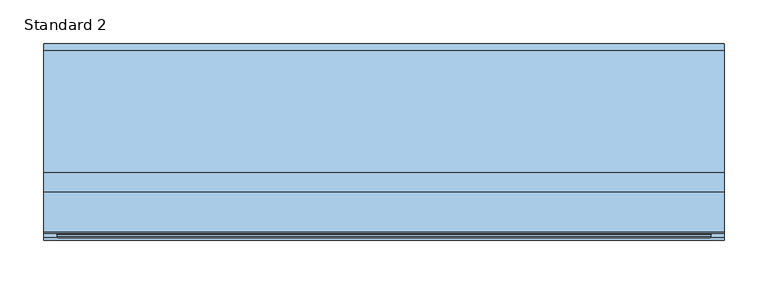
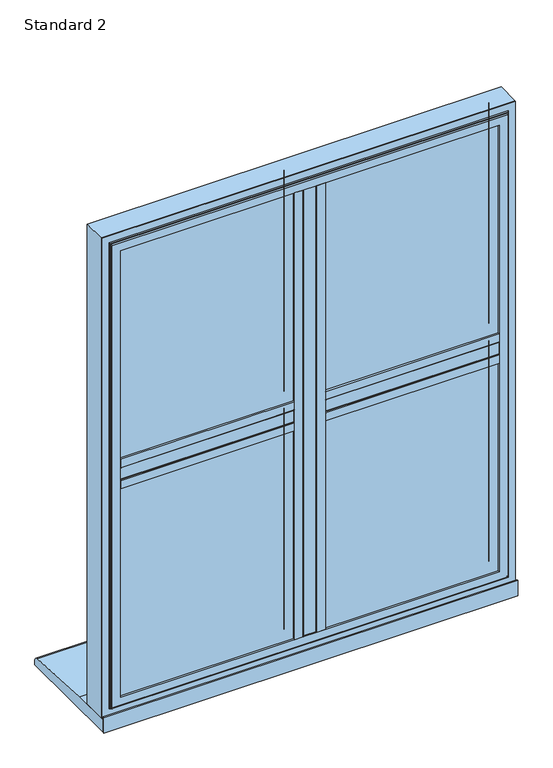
"""IFC4 building model written with IfcOpenShell, lengths in millimetres: window geometry, SMARTS_AlithermHeritage : Standard 2."""

from ifc_helpers import new_model, si_unit, point, frame, frame_2d, origin, place, context, project, spatial, polyline, circle_curve, ellipse_curve, trimmed, segment, composite_curve, outline, extrude, faceted_brep, source, transform, mapped, element, save
from ifc_brep_helpers import plane_surface, cylinder_surface, revolved_surface, advanced_brep


def standard_2_e76dede1(model_context):
    return source(origin(), model_context, "Body", "SolidModel", [
        extrude(outline(polyline([(-13.6941456, 95.2798432), (13.6941456, 95.2798432), (13.6941456, 47.279476), (-13.6941456, 47.279476), (-13.6941456, 95.2798432)])), frame((0.0, 0.0, 652.6941456), z_axis=(0.0, 0.0, 1.0), x_axis=(1.0, 0.0, 0.0)), (0.0, 0.0, 1.0), 919.6117089),
        extrude(outline(composite_curve([segment(polyline([(-29.0, 47.279476), (29.0, 47.279476), (29.0, 43.2798432), (13.0, 43.2798432)]), True, "CONTINUOUS"), segment(trimmed(circle_curve(frame_2d((13.0, 44.2798432)), 1.0), [point((13.0, 43.2798432))], [point((12.0, 44.2798432))], False, "CARTESIAN"), True, "CONTINUOUS"), segment(polyline([(12.0, 44.2798432), (12.0, 45.7798432), (-12.0, 45.7798432), (-12.0, 44.2798432)]), True, "CONTINUOUS"), segment(trimmed(circle_curve(frame_2d((-13.0, 44.2798432)), 1.0), [point((-12.0, 44.2798432))], [point((-13.0, 43.2798432))], False, "CARTESIAN"), True, "CONTINUOUS"), segment(polyline([(-13.0, 43.2798432), (-29.0, 43.2798432), (-29.0, 47.279476)]), True, "CONTINUOUS")], self_intersect=False)), frame((0.0, 0.0, 668.0), z_axis=(0.0, 0.0, 1.0), x_axis=(1.0, 0.0, 0.0)), (0.0, 0.0, 1.0), 889.0),
        extrude(outline(polyline([(-13.6941456, 95.2798432), (-13.6941456, 47.279476), (-372.3058544, 47.279476), (-372.3058544, 95.2798432), (-13.6941456, 95.2798432)])), frame((0.0, 0.0, 1098.8058544), z_axis=(0.0, 0.0, 1.0), x_axis=(1.0, 0.0, 0.0)), (0.0, 0.0, 1.0), 27.3882911),
        extrude(outline(composite_curve([segment(polyline([(47.279476, 1083.5), (43.2798432, 1083.5), (43.2798432, 1099.5)]), True, "CONTINUOUS"), segment(trimmed(circle_curve(frame_2d((44.2798432, 1099.5)), 1.0), [point((43.2798432, 1099.5))], [point((44.2798432, 1100.5))], False, "CARTESIAN"), True, "CONTINUOUS"), segment(polyline([(44.2798432, 1100.5), (45.7798432, 1100.5), (45.7798432, 1124.5), (44.2798432, 1124.5)]), True, "CONTINUOUS"), segment(trimmed(circle_curve(frame_2d((44.2798432, 1125.5)), 1.0), [point((44.2798432, 1124.5))], [point((43.2798432, 1125.5))], False, "CARTESIAN"), True, "CONTINUOUS"), segment(polyline([(43.2798432, 1125.5), (43.2798432, 1141.5), (47.279476, 1141.5), (47.279476, 1083.5)]), True, "CONTINUOUS")], self_intersect=False)), frame((-357.0, 0.0, 0.0), z_axis=(1.0, 0.0, 0.0), x_axis=(0.0, 1.0, 0.0)), (0.0, 0.0, 1.0), 328.0),
        extrude(outline(polyline([(372.3058544, 95.2798432), (372.3058544, 47.279476), (13.6941456, 47.279476), (13.6941456, 95.2798432), (372.3058544, 95.2798432)])), frame((0.0, 0.0, 1098.8058544), z_axis=(0.0, 0.0, 1.0), x_axis=(1.0, 0.0, 0.0)), (0.0, 0.0, 1.0), 27.3882911),
        extrude(outline(composite_curve([segment(polyline([(47.279476, 1083.5), (43.2798432, 1083.5), (43.2798432, 1099.5)]), True, "CONTINUOUS"), segment(trimmed(circle_curve(frame_2d((44.2798432, 1099.5)), 1.0), [point((43.2798432, 1099.5))], [point((44.2798432, 1100.5))], False, "CARTESIAN"), True, "CONTINUOUS"), segment(polyline([(44.2798432, 1100.5), (45.7798432, 1100.5), (45.7798432, 1124.5), (44.2798432, 1124.5)]), True, "CONTINUOUS"), segment(trimmed(circle_curve(frame_2d((44.2798432, 1125.5)), 1.0), [point((44.2798432, 1124.5))], [point((43.2798432, 1125.5))], False, "CARTESIAN"), True, "CONTINUOUS"), segment(polyline([(43.2798432, 1125.5), (43.2798432, 1141.5), (47.279476, 1141.5), (47.279476, 1083.5)]), True, "CONTINUOUS")], self_intersect=False)), frame((29.0, 0.0, 0.0), z_axis=(1.0, 0.0, 0.0), x_axis=(0.0, 1.0, 0.0)), (0.0, 0.0, 1.0), 328.0),
        extrude(outline(polyline([(-367.0, 75.2798432), (-19.0, 75.2798432), (-19.0, 71.2798432), (-367.0, 71.2798432), (-367.0, 75.2798432)])), frame((0.0, 0.0, 658.0), z_axis=(0.0, 0.0, 1.0), x_axis=(1.0, 0.0, 0.0)), (0.0, 0.0, 1.0), 435.5),
        extrude(outline(polyline([(-367.0, 55.2798432), (-19.0, 55.2798432), (-19.0, 51.2798432), (-367.0, 51.2798432), (-367.0, 55.2798432)])), frame((0.0, 0.0, 658.0), z_axis=(0.0, 0.0, 1.0), x_axis=(1.0, 0.0, 0.0)), (0.0, 0.0, 1.0), 435.5),
        extrude(outline(polyline([(1093.5, -367.0), (658.0, -367.0), (658.0, -19.0), (1093.5, -19.0), (1093.5, -367.0)]), holes=[polyline([(1083.5, -29.0), (668.0, -29.0), (668.0, -357.0), (1083.5, -357.0), (1083.5, -29.0)])]), frame((0.0, 55.2798432, 0.0), z_axis=(0.0, 1.0, 0.0), x_axis=(0.0, 0.0, 1.0)), (0.0, 0.0, 1.0), 16.0),
        faceted_brep([(-19.1851151, 95.2798432, 1093.3148849), (-29.0, 78.2798098, 1083.5), (-357.0, 78.2798098, 1083.5), (-366.8148849, 95.2798432, 1093.3148849), (-13.6297324, 78.2798098, 1098.8702676), (-13.6297324, 95.2798432, 1098.8702676), (-372.3702676, 95.2798432, 1098.8702676), (-372.3702676, 78.2798098, 1098.8702676), (-372.3702676, 78.2798098, 652.6297324), (-372.3702676, 95.2798432, 652.6297324), (-13.6297324, 95.2798432, 652.6297324), (-13.6297324, 78.2798098, 652.6297324), (-366.8148849, 95.2798432, 658.1851151), (-19.1851151, 95.2798432, 658.1851151), (-29.0, 78.2798098, 668.0), (-357.0, 78.2798098, 668.0)], [[[0, 1, 2, 3]], [[4, 5, 6, 7]], [[8, 9, 10, 11]], [[5, 10, 9, 6], [3, 12, 13, 0]], [[7, 8, 11, 4], [1, 14, 15, 2]], [[3, 2, 15, 12]], [[7, 6, 9, 8]], [[12, 15, 14, 13]], [[13, 14, 1, 0]], [[11, 10, 5, 4]]]),
        extrude(outline(polyline([(-367.0, 75.2798432), (-19.0, 75.2798432), (-19.0, 71.2798432), (-367.0, 71.2798432), (-367.0, 75.2798432)])), frame((0.0, 0.0, 1131.5), z_axis=(0.0, 0.0, 1.0), x_axis=(1.0, 0.0, 0.0)), (0.0, 0.0, 1.0), 435.5),
        extrude(outline(polyline([(-367.0, 55.2798432), (-19.0, 55.2798432), (-19.0, 51.2798432), (-367.0, 51.2798432), (-367.0, 55.2798432)])), frame((0.0, 0.0, 1131.5), z_axis=(0.0, 0.0, 1.0), x_axis=(1.0, 0.0, 0.0)), (0.0, 0.0, 1.0), 435.5),
        extrude(outline(polyline([(1567.0, -367.0), (1131.5, -367.0), (1131.5, -19.0), (1567.0, -19.0), (1567.0, -367.0)]), holes=[polyline([(1557.0, -29.0), (1141.5, -29.0), (1141.5, -357.0), (1557.0, -357.0), (1557.0, -29.0)])]), frame((0.0, 55.2798432, 0.0), z_axis=(0.0, 1.0, 0.0), x_axis=(0.0, 0.0, 1.0)), (0.0, 0.0, 1.0), 16.0),
        faceted_brep([(-19.1851151, 95.2798432, 1566.8148849), (-29.0, 78.2798098, 1557.0), (-357.0, 78.2798098, 1557.0), (-366.8148849, 95.2798432, 1566.8148849), (-13.6297324, 78.2798098, 1572.3702676), (-13.6297324, 95.2798432, 1572.3702676), (-372.3702676, 95.2798432, 1572.3702676), (-372.3702676, 78.2798098, 1572.3702676), (-372.3702676, 78.2798098, 1126.1297324), (-372.3702676, 95.2798432, 1126.1297324), (-13.6297324, 95.2798432, 1126.1297324), (-13.6297324, 78.2798098, 1126.1297324), (-366.8148849, 95.2798432, 1131.6851151), (-19.1851151, 95.2798432, 1131.6851151), (-29.0, 78.2798098, 1141.5), (-357.0, 78.2798098, 1141.5)], [[[0, 1, 2, 3]], [[4, 5, 6, 7]], [[8, 9, 10, 11]], [[5, 10, 9, 6], [3, 12, 13, 0]], [[7, 8, 11, 4], [1, 14, 15, 2]], [[3, 2, 15, 12]], [[7, 6, 9, 8]], [[12, 15, 14, 13]], [[13, 14, 1, 0]], [[11, 10, 5, 4]]]),
        extrude(outline(polyline([(19.0, 75.2798432), (367.0, 75.2798432), (367.0, 71.2798432), (19.0, 71.2798432), (19.0, 75.2798432)])), frame((0.0, 0.0, 658.0), z_axis=(0.0, 0.0, 1.0), x_axis=(1.0, 0.0, 0.0)), (0.0, 0.0, 1.0), 435.5),
        extrude(outline(polyline([(19.0, 55.2798432), (367.0, 55.2798432), (367.0, 51.2798432), (19.0, 51.2798432), (19.0, 55.2798432)])), frame((0.0, 0.0, 658.0), z_axis=(0.0, 0.0, 1.0), x_axis=(1.0, 0.0, 0.0)), (0.0, 0.0, 1.0), 435.5),
        extrude(outline(polyline([(1093.5, 19.0), (658.0, 19.0), (658.0, 367.0), (1093.5, 367.0), (1093.5, 19.0)]), holes=[polyline([(1083.5, 357.0), (668.0, 357.0), (668.0, 29.0), (1083.5, 29.0), (1083.5, 357.0)])]), frame((0.0, 55.2798432, 0.0), z_axis=(0.0, 1.0, 0.0), x_axis=(0.0, 0.0, 1.0)), (0.0, 0.0, 1.0), 16.0),
        faceted_brep([(366.8148849, 95.2798432, 1093.3148849), (357.0, 78.2798098, 1083.5), (29.0, 78.2798098, 1083.5), (19.1851151, 95.2798432, 1093.3148849), (372.3702676, 78.2798098, 1098.8702676), (372.3702676, 95.2798432, 1098.8702676), (13.6297324, 95.2798432, 1098.8702676), (13.6297324, 78.2798098, 1098.8702676), (13.6297324, 78.2798098, 652.6297324), (13.6297324, 95.2798432, 652.6297324), (372.3702676, 95.2798432, 652.6297324), (372.3702676, 78.2798098, 652.6297324), (19.1851151, 95.2798432, 658.1851151), (366.8148849, 95.2798432, 658.1851151), (357.0, 78.2798098, 668.0), (29.0, 78.2798098, 668.0)], [[[0, 1, 2, 3]], [[4, 5, 6, 7]], [[8, 9, 10, 11]], [[5, 10, 9, 6], [3, 12, 13, 0]], [[7, 8, 11, 4], [1, 14, 15, 2]], [[3, 2, 15, 12]], [[7, 6, 9, 8]], [[12, 15, 14, 13]], [[13, 14, 1, 0]], [[11, 10, 5, 4]]]),
        extrude(outline(polyline([(1590.0, 390.0), (1590.0, -390.0), (635.0, -390.0), (635.0, 390.0), (1590.0, 390.0)]), holes=[polyline([(652.7000182, 372.2999818), (652.7000182, -372.2999818), (1572.2999818, -372.2999818), (1572.2999818, 372.2999818), (652.7000182, 372.2999818)])]), frame((0.0, 50.279857, 0.0), z_axis=(0.0, 1.0, 0.0), x_axis=(0.0, 0.0, 1.0)), (0.0, 0.0, 1.0), 44.9999962),
        advanced_brep(
        [(357.0, 43.2798432, 1557.0), (357.0, 47.2798432, 1557.0), (357.0, 47.2798432, 668.0), (357.0, 43.2798432, 668.0), (390.0, 50.279857, 1590.0), (390.0, 48.279857, 1590.0), (390.0, 48.279857, 635.0), (390.0, 50.279857, 635.0), (372.4999818, 43.2798432, 1572.4999818), (-372.4999818, 43.2798432, 1572.4999818), (-372.4999818, 43.2798432, 652.5000182), (372.4999818, 43.2798432, 652.5000182), (-357.0, 43.2798432, 668.0), (-357.0, 43.2798432, 1557.0), (-390.0, 50.279857, 1590.0), (-390.0, 48.279857, 1590.0), (-390.0, 50.279857, 635.0), (372.2999818, 50.279857, 1572.2999818), (-372.2999818, 50.279857, 1572.2999818), (-372.2999818, 50.279857, 652.7000182), (372.2999818, 50.279857, 652.7000182), (-357.0, 47.2798432, 1557.0), (-357.0, 47.2798432, 668.0), (-390.0, 48.279857, 635.0), (-372.2999818, 47.2798432, 1572.2999818), (372.2999818, 47.2798432, 1572.2999818), (372.2999818, 47.2798432, 652.7000182), (374.4999818, 46.779857, 650.5000182), (374.4999818, 45.2798432, 650.5000182), (-374.4999818, 45.2798432, 650.5000182), (-374.4999818, 46.779857, 650.5000182), (374.4999818, 46.779857, 1574.4999818), (374.4999818, 45.2798432, 1574.4999818), (-372.2999818, 47.2798432, 652.7000182), (-374.4999818, 45.2798432, 1574.4999818), (-374.4999818, 46.779857, 1574.4999818), (375.9999818, 48.279857, 1575.9999818), (375.9999818, 48.279857, 649.0000182), (-375.9999818, 48.279857, 649.0000182), (-375.9999818, 48.279857, 1575.9999818)],
        [
            (0, 1),
            (1, 2),
            (2, 3),
            (3, 0),
            (4, 5),
            (5, 6),
            (6, 7),
            (7, 4),
            (8, 9),
            (9, 10),
            (10, 11),
            (11, 8),
            (3, 12),
            (12, 13),
            (13, 0),
            (14, 15),
            (15, 5),
            (4, 14),
            (7, 16),
            (16, 14),
            (17, 18),
            (18, 19),
            (19, 20),
            (20, 17),
            (13, 21),
            (21, 1),
            (2, 22),
            (22, 12),
            (22, 21),
            (6, 23),
            (23, 16),
            (23, 15),
            (24, 18),
            (17, 25),
            (25, 24),
            (20, 26),
            (26, 25),
            (27, 28),
            (28, 29),
            (29, 30),
            (30, 27),
            (31, 32),
            (32, 28),
            (27, 31),
            (19, 33),
            (33, 26),
            (24, 33),
            (29, 34),
            (34, 35),
            (35, 30),
            (34, 32),
            (31, 35),
            (36, 31, ellipse_curve(frame((375.9999818, 46.779857, 1575.9999818), z_axis=(-0.7071067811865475, 0.0, 0.7071067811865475), x_axis=(-0.7071067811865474, 0.0, -0.7071067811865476)), 2.1213203, 1.5)),
            (27, 37, ellipse_curve(frame((375.9999818, 46.779857, 649.0000182), z_axis=(-0.7071067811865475, 0.0, -0.7071067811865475), x_axis=(0.7071067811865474, 0.0, -0.7071067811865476)), 2.1213203, 1.5)),
            (37, 36),
            (30, 38, ellipse_curve(frame((-375.9999818, 46.779857, 649.0000182), z_axis=(-0.7071067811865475, 0.0, 0.7071067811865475), x_axis=(-0.7071067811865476, 0.0, -0.7071067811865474)), 2.1213203, 1.5)),
            (38, 37),
            (35, 39, ellipse_curve(frame((-375.9999818, 46.779857, 1575.9999818), z_axis=(0.7071067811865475, 0.0, 0.7071067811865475), x_axis=(-0.7071067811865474, 0.0, 0.7071067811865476)), 2.1213203, 1.5)),
            (39, 38),
            (36, 39),
            (32, 8, ellipse_curve(frame((372.4999818, 45.2798432, 1572.4999818), z_axis=(0.7071067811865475, 0.0, -0.7071067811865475), x_axis=(0.7071067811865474, 0.0, 0.7071067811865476)), 2.8284271, 2.0)),
            (11, 28, ellipse_curve(frame((372.4999818, 45.2798432, 652.5000182), z_axis=(0.7071067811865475, 0.0, 0.7071067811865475), x_axis=(-0.7071067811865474, 0.0, 0.7071067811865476)), 2.8284271, 2.0)),
            (10, 29, ellipse_curve(frame((-372.4999818, 45.2798432, 652.5000182), z_axis=(0.7071067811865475, 0.0, -0.7071067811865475), x_axis=(0.7071067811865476, 0.0, 0.7071067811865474)), 2.8284271, 2.0)),
            (9, 34, ellipse_curve(frame((-372.4999818, 45.2798432, 1572.4999818), z_axis=(-0.7071067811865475, 0.0, -0.7071067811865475), x_axis=(0.7071067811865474, 0.0, -0.7071067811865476)), 2.8284271, 2.0)),
        ],
        [
            plane_surface(frame((357.0, 47.2798432, 1557.0), z_axis=(-1.0, 0.0, 0.0), x_axis=(0.0, 0.0, -1.0))),
            plane_surface(frame((390.0, 48.279857, 1590.0), z_axis=(1.0, 0.0, 0.0), x_axis=(0.0, 0.0, -1.0))),
            plane_surface(frame((-357.0, 43.2798432, 1557.0), z_axis=(0.0, -1.0, 0.0), x_axis=(1.0, 0.0, 0.0))),
            plane_surface(frame((-390.0, 48.279857, 1590.0), z_axis=(0.0, 0.0, 1.0), x_axis=(1.0, 0.0, 0.0))),
            plane_surface(frame((-390.0, 50.279857, 1590.0), z_axis=(0.0, 1.0, 0.0), x_axis=(1.0, 0.0, 0.0))),
            plane_surface(frame((-357.0, 47.2798432, 1557.0), z_axis=(0.0, 0.0, -1.0), x_axis=(1.0, 0.0, 0.0))),
            plane_surface(frame((357.0, 47.2798432, 668.0), z_axis=(0.0, 0.0, 1.0), x_axis=(-1.0, 0.0, 0.0))),
            plane_surface(frame((-357.0, 47.2798432, 668.0), z_axis=(1.0, 0.0, 0.0), x_axis=(0.0, 0.0, 1.0))),
            plane_surface(frame((390.0, 48.279857, 635.0), z_axis=(0.0, 0.0, -1.0), x_axis=(-1.0, 0.0, 0.0))),
            plane_surface(frame((-390.0, 48.279857, 635.0), z_axis=(-1.0, 0.0, 0.0), x_axis=(0.0, 0.0, 1.0))),
            plane_surface(frame((-372.2999818, 50.279857, 1572.2999818), z_axis=(0.0, 0.0, -1.0), x_axis=(1.0, 0.0, 0.0))),
            plane_surface(frame((372.2999818, 50.279857, 1572.2999818), z_axis=(-1.0, 0.0, 0.0), x_axis=(0.0, 0.0, -1.0))),
            plane_surface(frame((374.4999818, 45.2798432, 650.5000182), z_axis=(0.0, 0.0, -1.0), x_axis=(-1.0, 0.0, 0.0))),
            plane_surface(frame((374.4999818, 45.2798432, 1574.4999818), z_axis=(1.0, 0.0, 0.0), x_axis=(0.0, 0.0, -1.0))),
            plane_surface(frame((372.2999818, 50.279857, 652.7000182), z_axis=(0.0, 0.0, 1.0), x_axis=(-1.0, 0.0, 0.0))),
            plane_surface(frame((-372.2999818, 50.279857, 652.7000182), z_axis=(1.0, 0.0, 0.0), x_axis=(0.0, 0.0, 1.0))),
            plane_surface(frame((-374.4999818, 45.2798432, 650.5000182), z_axis=(-1.0, 0.0, 0.0), x_axis=(0.0, 0.0, 1.0))),
            plane_surface(frame((-372.2999818, 47.2798432, 1572.2999818), z_axis=(0.0, 1.0, 0.0), x_axis=(1.0, 0.0, 0.0))),
            plane_surface(frame((-374.4999818, 45.2798432, 1574.4999818), z_axis=(0.0, 0.0, 1.0), x_axis=(1.0, 0.0, 0.0))),
            revolved_surface(polyline([(374.4999818, 46.779857, 647.5000182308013), (374.4999818, 46.779857, 1577.4999817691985)]), (375.9999818, 46.779857, 1590.0), (0.0, 0.0, -1.0)),
            revolved_surface(polyline([(-377.4999817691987, 46.779857, 650.5000182), (377.49998176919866, 46.779857, 650.5000182)]), (390.0, 46.779857, 649.0000182), (-1.0, 0.0, 0.0)),
            revolved_surface(polyline([(-374.4999818, 46.779857, 1577.4999817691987), (-374.4999818, 46.779857, 647.5000182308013)]), (-375.9999818, 46.779857, 635.0), (0.0, 0.0, 1.0)),
            revolved_surface(polyline([(377.4999817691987, 46.779857, 1574.4999818), (-377.49998176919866, 46.779857, 1574.4999818)]), (-390.0, 46.779857, 1575.9999818), (1.0, 0.0, 0.0)),
            plane_surface(frame((-375.9999818, 48.279857, 1575.9999818), z_axis=(0.0, -1.0, 0.0), x_axis=(1.0, 0.0, 0.0))),
            cylinder_surface(frame((372.4999818, 45.2798432, 1590.0), z_axis=(0.0, 0.0, 1.0), x_axis=(-1.0, 0.0, 0.0)), 2.0),
            cylinder_surface(frame((390.0, 45.2798432, 652.5000182), z_axis=(1.0, 0.0, 0.0), x_axis=(0.0, 0.0, 1.0)), 2.0),
            cylinder_surface(frame((-372.4999818, 45.2798432, 635.0), z_axis=(0.0, 0.0, -1.0), x_axis=(1.0, 0.0, 0.0)), 2.0),
            cylinder_surface(frame((-390.0, 45.2798432, 1572.4999818), z_axis=(-1.0, 0.0, 0.0), x_axis=(0.0, 0.0, -1.0)), 2.0),
        ],
        [
            (0, [[1, 2, 3, 4]]),
            (1, [[5, 6, 7, 8]]),
            (2, [[9, 10, 11, 12], [13, 14, 15, -4]]),
            (3, [[16, 17, -5, 18]]),
            (4, [[19, 20, -18, -8], [21, 22, 23, 24]]),
            (5, [[25, 26, -1, -15]]),
            (6, [[-3, 27, 28, -13]]),
            (7, [[-28, 29, -25, -14]]),
            (8, [[-7, 30, 31, -19]]),
            (9, [[-31, 32, -16, -20]]),
            (10, [[33, -21, 34, 35]]),
            (11, [[-34, -24, 36, 37]]),
            (12, [[38, 39, 40, 41]]),
            (13, [[42, 43, -38, 44]]),
            (14, [[-36, -23, 45, 46]]),
            (15, [[-45, -22, -33, 47]]),
            (16, [[-40, 48, 49, 50]]),
            (17, [[-46, -47, -35, -37], [-26, -29, -27, -2]]),
            (18, [[-49, 51, -42, 52]]),
            (19, [[53, -44, 54, 55]]),
            (20, [[-54, -41, 56, 57]]),
            (21, [[-56, -50, 58, 59]]),
            (22, [[-58, -52, -53, 60]]),
            (23, [[-17, -32, -30, -6], [-57, -59, -60, -55]]),
            (24, [[61, -12, 62, -43]]),
            (25, [[-62, -11, 63, -39]]),
            (26, [[-63, -10, 64, -48]]),
            (27, [[-64, -9, -61, -51]]),
        ],
    ),
        extrude(outline(polyline([(19.0, 75.2798432), (367.0, 75.2798432), (367.0, 71.2798432), (19.0, 71.2798432), (19.0, 75.2798432)])), frame((0.0, 0.0, 1131.5), z_axis=(0.0, 0.0, 1.0), x_axis=(1.0, 0.0, 0.0)), (0.0, 0.0, 1.0), 435.5),
        extrude(outline(polyline([(19.0, 55.2798432), (367.0, 55.2798432), (367.0, 51.2798432), (19.0, 51.2798432), (19.0, 55.2798432)])), frame((0.0, 0.0, 1131.5), z_axis=(0.0, 0.0, 1.0), x_axis=(1.0, 0.0, 0.0)), (0.0, 0.0, 1.0), 435.5),
        extrude(outline(polyline([(1567.0, 19.0), (1131.5, 19.0), (1131.5, 367.0), (1567.0, 367.0), (1567.0, 19.0)]), holes=[polyline([(1557.0, 357.0), (1141.5, 357.0), (1141.5, 29.0), (1557.0, 29.0), (1557.0, 357.0)])]), frame((0.0, 55.2798432, 0.0), z_axis=(0.0, 1.0, 0.0), x_axis=(0.0, 0.0, 1.0)), (0.0, 0.0, 1.0), 16.0),
        faceted_brep([(366.8148849, 95.2798432, 1566.8148849), (357.0, 78.2798098, 1557.0), (29.0, 78.2798098, 1557.0), (19.1851151, 95.2798432, 1566.8148849), (372.3702676, 78.2798098, 1572.3702676), (372.3702676, 95.2798432, 1572.3702676), (13.6297324, 95.2798432, 1572.3702676), (13.6297324, 78.2798098, 1572.3702676), (13.6297324, 78.2798098, 1126.1297324), (13.6297324, 95.2798432, 1126.1297324), (372.3702676, 95.2798432, 1126.1297324), (372.3702676, 78.2798098, 1126.1297324), (19.1851151, 95.2798432, 1131.6851151), (366.8148849, 95.2798432, 1131.6851151), (357.0, 78.2798098, 1141.5), (29.0, 78.2798098, 1141.5)], [[[0, 1, 2, 3]], [[4, 5, 6, 7]], [[8, 9, 10, 11]], [[5, 10, 9, 6], [3, 12, 13, 0]], [[7, 8, 11, 4], [1, 14, 15, 2]], [[3, 2, 15, 12]], [[7, 6, 9, 8]], [[12, 15, 14, 13]], [[13, 14, 1, 0]], [[11, 10, 5, 4]]]),
        extrude(outline(polyline([(390.0, 43.2798432), (390.0, 40.7798432), (-390.0, 40.7798432), (-390.0, 43.2798432), (390.0, 43.2798432)])), frame((0.0, 0.0, 610.0), z_axis=(0.0, 0.0, 1.0), x_axis=(1.0, 0.0, 0.0)), (0.0, 0.0, 1.0), 31.0),
        extrude(outline(composite_curve([segment(polyline([(265.7798432, 610.0), (43.2798432, 610.0), (43.2798432, 635.0), (118.7798432, 635.0), (258.4770891, 625.9276664)]), True, "CONTINUOUS"), segment(trimmed(circle_curve(frame_2d((257.7798432, 617.9581088)), 8.0), [point((258.4770891, 625.9276664))], [point((265.7798432, 617.9581088))], False, "CARTESIAN"), True, "CONTINUOUS"), segment(polyline([(265.7798432, 617.9581088), (265.7798432, 610.0)]), True, "CONTINUOUS")], self_intersect=False)), frame((-390.0, 0.0, 0.0), z_axis=(1.0, 0.0, 0.0), x_axis=(0.0, 1.0, 0.0)), (0.0, 0.0, 1.0), 780.0),
    ])


if __name__ == "__main__":
    model = new_model("IFC4")
    model_context = context("Model", 3, world=origin())
    ifc_project = project(units=[si_unit("LENGTHUNIT", "METRE", prefix="MILLI")], contexts=[model_context])
    site = spatial("IfcSite", under=ifc_project)
    building = spatial("IfcBuilding", under=site)
    placement = place(None, origin())
    standard_2_shape = standard_2_e76dede1(model_context)
    element("IfcWindow", 1, ObjectType="SMARTS_AlithermHeritage : Standard 2", at=placement, inside=building, context=model_context, shape_type="MappedRepresentation", body=[
        mapped(standard_2_shape, transform((0.0, 0.0, 0.0), x_axis=(1.0, 0.0, 0.0), y_axis=(0.0, 1.0, 0.0), z_axis=(0.0, 0.0, 1.0))),
    ])
    save(model, "model.ifc")
